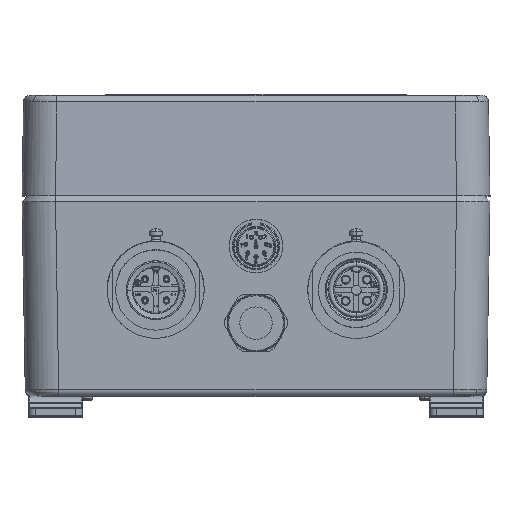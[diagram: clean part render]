
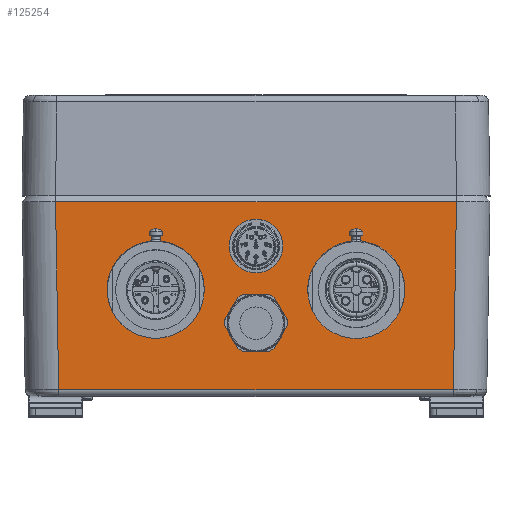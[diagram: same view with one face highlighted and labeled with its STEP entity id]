
A CAD part, top view. The second image highlights one B-rep face of the part: STEP entity #125254.
In plain terms, the highlighted planar face has unit normal (0, -0.017, 1).
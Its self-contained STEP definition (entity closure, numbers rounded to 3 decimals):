
#1444 = AXIS2_PLACEMENT_3D ( 'NONE', #48790, #138251, #105429 ) ;
#3466 = EDGE_CURVE ( 'NONE', #56026, #103928, #129877, .T. ) ;
#3924 = EDGE_CURVE ( 'NONE', #113358, #74111, #146767, .T. ) ;
#5476 = DIRECTION ( 'NONE',  ( -1., 0., 0. ) ) ;
#5554 = ORIENTED_EDGE ( 'NONE', *, *, #107772, .F. ) ;
#7498 = DIRECTION ( 'NONE',  ( 1., 0., 0. ) ) ;
#7642 = ORIENTED_EDGE ( 'NONE', *, *, #121457, .F. ) ;
#10101 = CARTESIAN_POINT ( 'NONE',  ( -29.874, 45.498, 69.97 ) ) ;
#11341 = CARTESIAN_POINT ( 'NONE',  ( -89.846, 9.262, 69.366 ) ) ;
#11633 = LINE ( 'NONE', #57701, #74553 ) ;
#13332 = EDGE_LOOP ( 'NONE', ( #101130, #32976 ) ) ;
#15423 = DIRECTION ( 'NONE',  ( 0., -0.017, 1. ) ) ;
#16669 = CARTESIAN_POINT ( 'NONE',  ( -159.846, 47.298, 70. ) ) ;
#17062 = EDGE_CURVE ( 'NONE', #74111, #113358, #120436, .T. ) ;
#19638 = FACE_BOUND ( 'NONE', #73528, .T. ) ;
#20384 = VERTEX_POINT ( 'NONE', #127451 ) ;
#21016 = CARTESIAN_POINT ( 'NONE',  ( -59.846, 31.758, 69.741 ) ) ;
#23074 = ORIENTED_EDGE ( 'NONE', *, *, #77799, .T. ) ;
#24630 = DIRECTION ( 'NONE',  ( 0., -1., -0.017 ) ) ;
#24959 = AXIS2_PLACEMENT_3D ( 'NONE', #94298, #39915, #38493 ) ;
#25355 = CIRCLE ( 'NONE', #58550, 12.5 ) ;
#26184 = VERTEX_POINT ( 'NONE', #143058 ) ;
#26739 = ORIENTED_EDGE ( 'NONE', *, *, #28071, .F. ) ;
#27024 = DIRECTION ( 'NONE',  ( 0.017, 1., 0.017 ) ) ;
#27334 = CARTESIAN_POINT ( 'NONE',  ( -119.846, 19.26, 69.533 ) ) ;
#27527 = CARTESIAN_POINT ( 'NONE',  ( -119.846, 6.762, 69.324 ) ) ;
#28071 = EDGE_CURVE ( 'NONE', #26184, #20384, #65403, .T. ) ;
#31246 = ORIENTED_EDGE ( 'NONE', *, *, #109577, .T. ) ;
#31567 = FACE_BOUND ( 'NONE', #50837, .T. ) ;
#32976 = ORIENTED_EDGE ( 'NONE', *, *, #3924, .F. ) ;
#36057 = DIRECTION ( 'NONE',  ( -1., 0., 0. ) ) ;
#38493 = DIRECTION ( 'NONE',  ( 0., -1., -0.017 ) ) ;
#39063 = AXIS2_PLACEMENT_3D ( 'NONE', #126689, #116182, #24630 ) ;
#39915 = DIRECTION ( 'NONE',  ( 0., -0.017, 1. ) ) ;
#40197 = LINE ( 'NONE', #47138, #64577 ) ;
#44075 = DIRECTION ( 'NONE',  ( 0., -1., -0.017 ) ) ;
#44769 = VERTEX_POINT ( 'NONE', #105484 ) ;
#47138 = CARTESIAN_POINT ( 'NONE',  ( -159.846, 45.498, 69.97 ) ) ;
#47957 = AXIS2_PLACEMENT_3D ( 'NONE', #16669, #63523, #5476 ) ;
#48790 = CARTESIAN_POINT ( 'NONE',  ( -59.846, 19.26, 69.533 ) ) ;
#49292 = ORIENTED_EDGE ( 'NONE', *, *, #117297, .T. ) ;
#50300 = CARTESIAN_POINT ( 'NONE',  ( -59.846, 19.26, 69.533 ) ) ;
#50728 = CARTESIAN_POINT ( 'NONE',  ( -29.88, 45.132, 69.964 ) ) ;
#50837 = EDGE_LOOP ( 'NONE', ( #74973, #7642 ) ) ;
#51222 = AXIS2_PLACEMENT_3D ( 'NONE', #76710, #87960, #75233 ) ;
#52842 = VERTEX_POINT ( 'NONE', #58109 ) ;
#56026 = VERTEX_POINT ( 'NONE', #21016 ) ;
#57701 = CARTESIAN_POINT ( 'NONE',  ( -149.85, 47.464, 70.003 ) ) ;
#58109 = CARTESIAN_POINT ( 'NONE',  ( -148.88, -10.736, 69.033 ) ) ;
#58550 = AXIS2_PLACEMENT_3D ( 'NONE', #50300, #15423, #118147 ) ;
#58996 = LINE ( 'NONE', #50728, #118766 ) ;
#59422 = CARTESIAN_POINT ( 'NONE',  ( -119.846, 31.758, 69.741 ) ) ;
#62598 = CARTESIAN_POINT ( 'NONE',  ( -30.844, -10.736, 69.033 ) ) ;
#62783 = PLANE ( 'NONE',  #47957 ) ;
#63523 = DIRECTION ( 'NONE',  ( 0., -0.017, 1. ) ) ;
#64577 = VECTOR ( 'NONE', #36057, 1000. ) ;
#65403 = CIRCLE ( 'NONE', #24959, 6.05 ) ;
#71131 = EDGE_LOOP ( 'NONE', ( #128784, #115931 ) ) ;
#72015 = EDGE_CURVE ( 'NONE', #103928, #56026, #25355, .T. ) ;
#72682 = DIRECTION ( 'NONE',  ( 0., -1., -0.017 ) ) ;
#73528 = EDGE_LOOP ( 'NONE', ( #26739, #5554 ) ) ;
#74111 = VERTEX_POINT ( 'NONE', #27527 ) ;
#74553 = VECTOR ( 'NONE', #79386, 1000. ) ;
#74972 = CARTESIAN_POINT ( 'NONE',  ( -59.846, 6.762, 69.324 ) ) ;
#74973 = ORIENTED_EDGE ( 'NONE', *, *, #84532, .F. ) ;
#75233 = DIRECTION ( 'NONE',  ( 0., -1., -0.017 ) ) ;
#76193 = AXIS2_PLACEMENT_3D ( 'NONE', #11341, #145403, #44075 ) ;
#76710 = CARTESIAN_POINT ( 'NONE',  ( -119.846, 19.26, 69.533 ) ) ;
#77799 = EDGE_CURVE ( 'NONE', #44769, #127574, #58996, .T. ) ;
#78770 = EDGE_LOOP ( 'NONE', ( #83950, #49292, #23074, #31246 ) ) ;
#79386 = DIRECTION ( 'NONE',  ( 0.017, -1., -0.017 ) ) ;
#80122 = DIRECTION ( 'NONE',  ( 0., -0.017, 1. ) ) ;
#81747 = DIRECTION ( 'NONE',  ( 0., -0.017, 1. ) ) ;
#83950 = ORIENTED_EDGE ( 'NONE', *, *, #121393, .T. ) ;
#84532 = EDGE_CURVE ( 'NONE', #116854, #97546, #121409, .T. ) ;
#87960 = DIRECTION ( 'NONE',  ( 0., -0.017, 1. ) ) ;
#88984 = CIRCLE ( 'NONE', #143563, 5.25 ) ;
#89866 = CARTESIAN_POINT ( 'NONE',  ( -89.846, 9.262, 69.366 ) ) ;
#94298 = CARTESIAN_POINT ( 'NONE',  ( -89.846, 32.259, 69.749 ) ) ;
#97546 = VERTEX_POINT ( 'NONE', #135677 ) ;
#99329 = FACE_BOUND ( 'NONE', #13332, .T. ) ;
#101130 = ORIENTED_EDGE ( 'NONE', *, *, #17062, .F. ) ;
#103928 = VERTEX_POINT ( 'NONE', #74972 ) ;
#105429 = DIRECTION ( 'NONE',  ( 0., -1., -0.017 ) ) ;
#105484 = CARTESIAN_POINT ( 'NONE',  ( -30.811, -10.736, 69.033 ) ) ;
#107772 = EDGE_CURVE ( 'NONE', #20384, #26184, #141320, .T. ) ;
#109527 = LINE ( 'NONE', #62598, #145000 ) ;
#109577 = EDGE_CURVE ( 'NONE', #127574, #147320, #40197, .T. ) ;
#111409 = CARTESIAN_POINT ( 'NONE',  ( -149.817, 45.498, 69.97 ) ) ;
#112786 = CARTESIAN_POINT ( 'NONE',  ( -89.846, 4.012, 69.279 ) ) ;
#113358 = VERTEX_POINT ( 'NONE', #59422 ) ;
#115931 = ORIENTED_EDGE ( 'NONE', *, *, #3466, .F. ) ;
#116182 = DIRECTION ( 'NONE',  ( 0., -0.017, 1. ) ) ;
#116854 = VERTEX_POINT ( 'NONE', #112786 ) ;
#117297 = EDGE_CURVE ( 'NONE', #52842, #44769, #109527, .T. ) ;
#118147 = DIRECTION ( 'NONE',  ( 0., -1., -0.017 ) ) ;
#118766 = VECTOR ( 'NONE', #27024, 1000. ) ;
#119421 = FACE_BOUND ( 'NONE', #71131, .T. ) ;
#120436 = CIRCLE ( 'NONE', #122795, 12.5 ) ;
#121393 = EDGE_CURVE ( 'NONE', #147320, #52842, #11633, .T. ) ;
#121409 = CIRCLE ( 'NONE', #76193, 5.25 ) ;
#121457 = EDGE_CURVE ( 'NONE', #97546, #116854, #88984, .T. ) ;
#122795 = AXIS2_PLACEMENT_3D ( 'NONE', #27334, #81747, #72682 ) ;
#125254 = ADVANCED_FACE ( 'NONE', ( #19638, #119421, #99329, #31567, #142506 ), #62783, .T. ) ;
#126689 = CARTESIAN_POINT ( 'NONE',  ( -89.846, 32.259, 69.749 ) ) ;
#127451 = CARTESIAN_POINT ( 'NONE',  ( -89.846, 38.308, 69.85 ) ) ;
#127574 = VERTEX_POINT ( 'NONE', #10101 ) ;
#128784 = ORIENTED_EDGE ( 'NONE', *, *, #72015, .F. ) ;
#129877 = CIRCLE ( 'NONE', #1444, 12.5 ) ;
#135248 = DIRECTION ( 'NONE',  ( 0., -1., -0.017 ) ) ;
#135677 = CARTESIAN_POINT ( 'NONE',  ( -89.846, 14.511, 69.454 ) ) ;
#138251 = DIRECTION ( 'NONE',  ( 0., -0.017, 1. ) ) ;
#141320 = CIRCLE ( 'NONE', #39063, 6.05 ) ;
#142506 = FACE_OUTER_BOUND ( 'NONE', #78770, .T. ) ;
#143058 = CARTESIAN_POINT ( 'NONE',  ( -89.846, 26.209, 69.649 ) ) ;
#143563 = AXIS2_PLACEMENT_3D ( 'NONE', #89866, #80122, #135248 ) ;
#145000 = VECTOR ( 'NONE', #7498, 1000. ) ;
#145403 = DIRECTION ( 'NONE',  ( 0., -0.017, 1. ) ) ;
#146767 = CIRCLE ( 'NONE', #51222, 12.5 ) ;
#147320 = VERTEX_POINT ( 'NONE', #111409 ) ;
